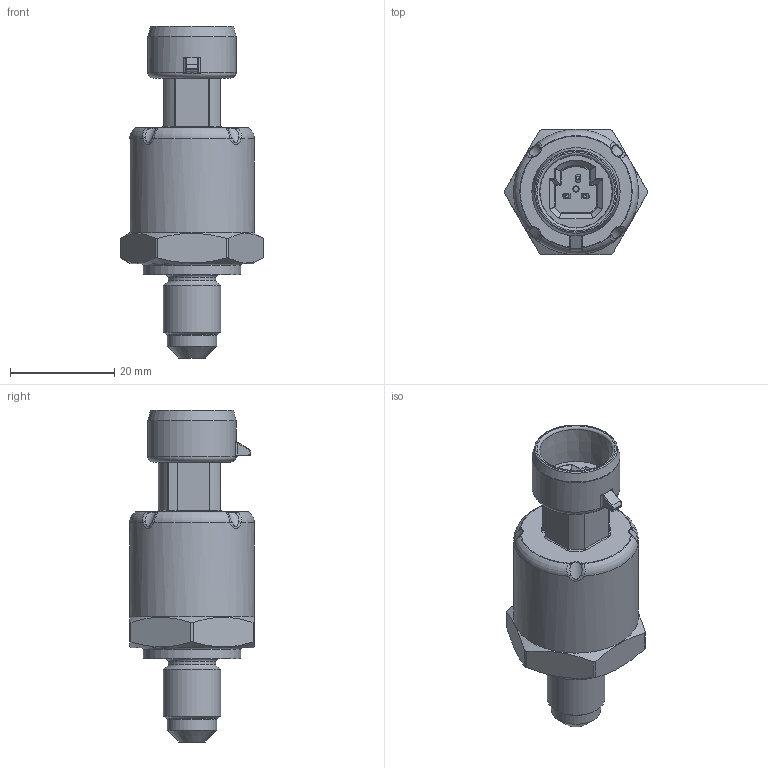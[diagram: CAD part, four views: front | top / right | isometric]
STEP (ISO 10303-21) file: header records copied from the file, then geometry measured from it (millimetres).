
FILE_DESCRIPTION(/* description */ (''),/* implementation_level */ '2;1');
FILE_NAME(/* name */ '560.xxxxB20000.stp',/* time_stamp */ '2024-06-05T15:31:36+02:00',/* author */ ('uch10269'),/* organization */ (''),/* preprocessor_version */ 'ST-DEVELOPER v19.2',/* originating_system */ 'Autodesk Inventor 2023',/* authorisation */ '');
FILE_SCHEMA (('AUTOMOTIVE_DESIGN { 1 0 10303 214 3 1 1 }'));
Length unit declared in the file: millimetre
Products named in the file (1): Part6
Bounding box: 27.4 x 24 x 63.78 mm (x, y, z)
Volume: 15049.4 mm3; surface area: 5683 mm2
Topology: 1 solids, 1 shells, 331 faces, 819 edges, 496 vertices
Faces by surface type: bspline 101, cylinder 93, plane 80, torus 30, cone 18, sphere 9
Full cylindrical faces by diameter (mm): 4.2 x1, 9.1 x1, 9.5 x1, 11.112 x1, 16.95 x1, 18.8 x1, 24 x1
Entity records: 12135 total; most frequent: CARTESIAN_POINT 4522, ORIENTED_EDGE 1626, DIRECTION 1573, EDGE_CURVE 813, AXIS2_PLACEMENT_3D 662, VERTEX_POINT 496, EDGE_LOOP 343, FACE_OUTER_BOUND 331
